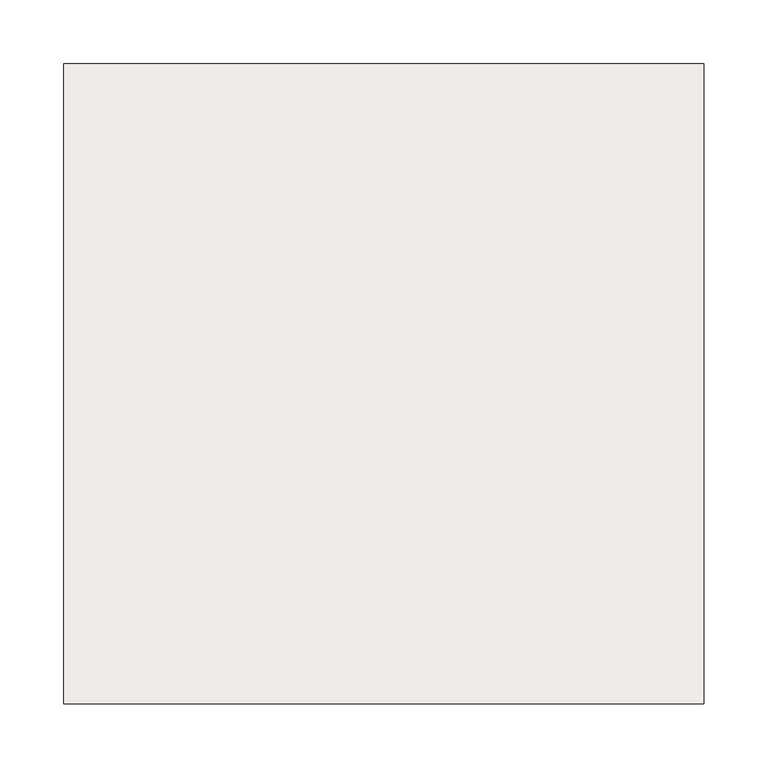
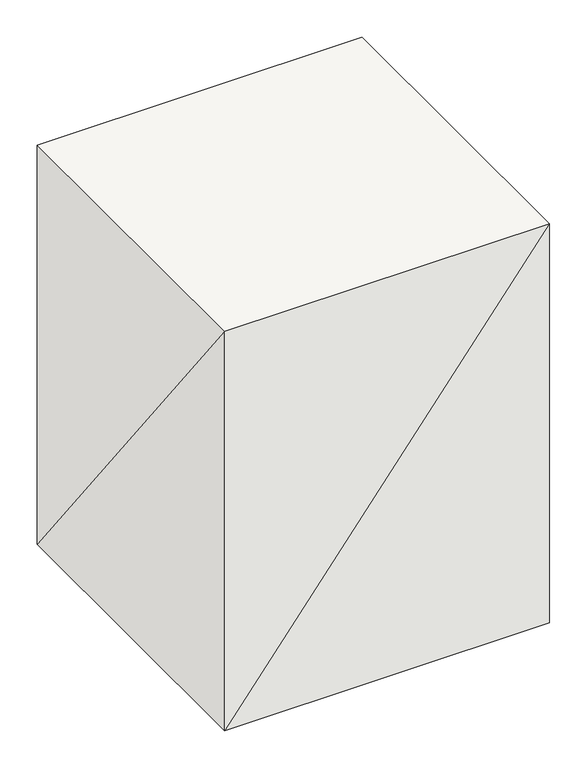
"""IFC4 building model written with IfcOpenShell, lengths in millimetres: slab geometry."""

from ifc_helpers import new_model, si_unit, origin, place, context, project, spatial, faceted_brep, source, transform, mapped, element, save


def slab_a90a90da(model_context):
    return source(origin(), model_context, "Body", "Brep", [
        faceted_brep([(250.0, 250.0, -650.0), (250.0, -250.0, -650.0), (-250.0, -250.0, -650.0), (-250.0, 250.0, -650.0), (-250.0, 250.0, 0.0), (-250.0, -250.0, 0.0), (250.0, -250.0, 0.0), (250.0, 250.0, 0.0)], [[[0, 1, 2, 3]], [[4, 5, 6, 7]], [[4, 3, 5]], [[3, 2, 5]], [[5, 2, 6]], [[2, 1, 6]], [[6, 1, 7]], [[1, 0, 7]], [[7, 0, 4]], [[0, 3, 4]]]),
    ])


if __name__ == "__main__":
    model = new_model("IFC4")
    model_context = context("Model", 3, world=origin())
    ifc_project = project(units=[si_unit("LENGTHUNIT", "METRE", prefix="MILLI")], contexts=[model_context])
    site = spatial("IfcSite", under=ifc_project)
    building = spatial("IfcBuilding", under=site)
    placement = place(None, origin())
    slab_shape = slab_a90a90da(model_context)
    element("IfcSlab", 1, at=placement, inside=building, context=model_context, shape_type="MappedRepresentation", body=[
        mapped(slab_shape, transform((0.0, 0.0, 0.0), x_axis=(1.0, 0.0, 0.0), y_axis=(0.0, 1.0, 0.0), z_axis=(0.0, 0.0, 1.0))),
    ])
    save(model, "model.ifc")
